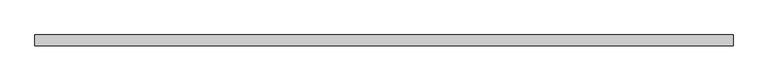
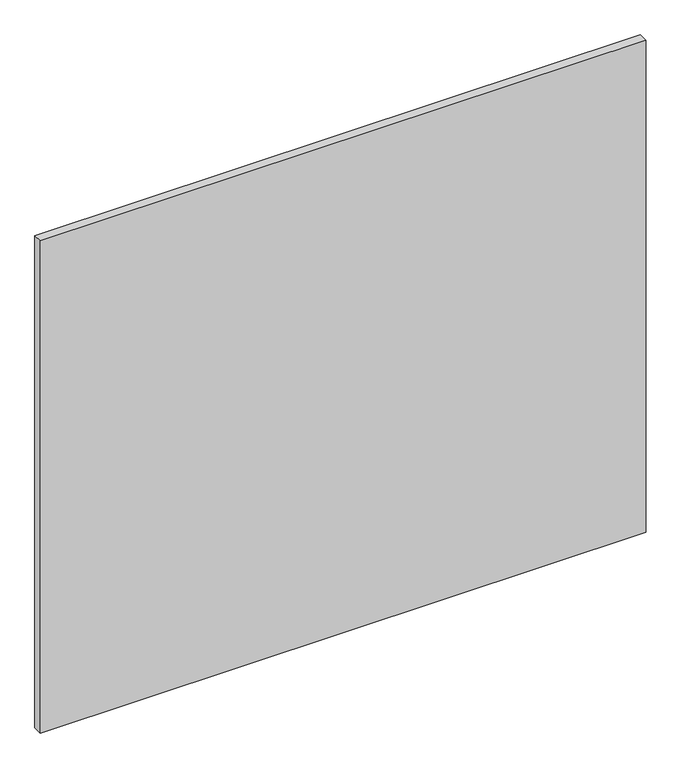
"""IFC4 building model written with IfcOpenShell, lengths in millimetres: plate geometry, Системная панель : ADSK_Cтеклопакет_25 мм."""

from ifc_helpers import new_model, si_unit, origin, origin_with_axes, place, context, project, spatial, polyline, outline, extrude, source, transform, mapped, element, save


def plate_b7f66d03(model_context):
    return source(origin(), model_context, "Body", "SweptSolid", [
        extrude(outline(polyline([(815.0, -12.5), (-815.0, -12.5), (-815.0, 12.5), (815.0, 12.5), (815.0, -12.5)])), origin_with_axes(), (0.0, 0.0, 1.0), 1400.0),
    ])


if __name__ == "__main__":
    model = new_model("IFC4")
    model_context = context("Model", 3, world=origin())
    ifc_project = project(units=[si_unit("LENGTHUNIT", "METRE", prefix="MILLI")], contexts=[model_context])
    site = spatial("IfcSite", under=ifc_project)
    building = spatial("IfcBuilding", under=site)
    placement = place(None, origin())
    plate_shape = plate_b7f66d03(model_context)
    element("IfcPlate", 1, ObjectType="Системная панель : ADSK_Cтеклопакет_25 мм", at=placement, inside=building, context=model_context, shape_type="MappedRepresentation", body=[
        mapped(plate_shape, transform((0.0, 0.0, 0.0), x_axis=(1.0, 0.0, 0.0), y_axis=(0.0, 1.0, 0.0), z_axis=(0.0, 0.0, 1.0))),
    ])
    save(model, "model.ifc")
